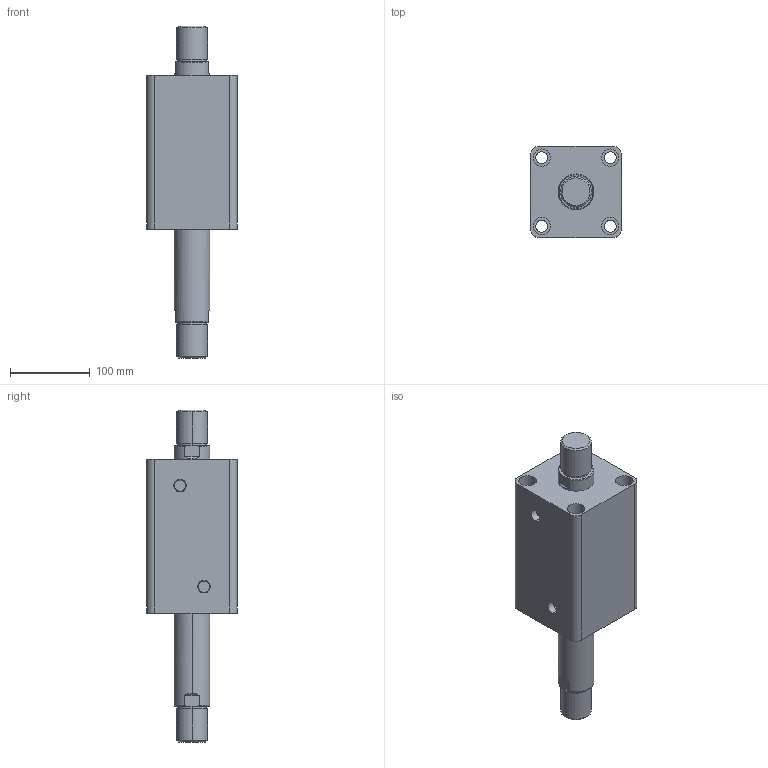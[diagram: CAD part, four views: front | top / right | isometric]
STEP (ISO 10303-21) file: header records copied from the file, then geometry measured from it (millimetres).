
FILE_DESCRIPTION (( 'STEP AP203' ), '1' );
FILE_NAME ('HTB-SW80-100W.STEP', '2019-10-07T10:28:14', ( '微软用户' ), ( '微软中国' ), 'SwSTEP 2.0', 'SolidWorks 2012', '' );
FILE_SCHEMA (( 'CONFIG_CONTROL_DESIGN' ));
Length unit declared in the file: millimetre
Products named in the file (3): HTB-SW80-100W; HTB-SW80-100W活塞杆; HTB-SW80-100掛极
Assembly tree (2 placements, depth 2):
  HTB-SW80-100W
    HTB-SW80-100掛极
    HTB-SW80-100W活塞杆
Bounding box: 114 x 114 x 417 mm (x, y, z)
Volume: 2300636.6 mm3; surface area: 265510.8 mm2
Topology: 2 solids, 2 shells, 108 faces, 240 edges, 156 vertices
Faces by surface type: cylinder 52, plane 36, torus 12, cone 8
Entity records: 3449 total; most frequent: CARTESIAN_POINT 629, DIRECTION 586, ORIENTED_EDGE 480, AXIS2_PLACEMENT_3D 249, EDGE_CURVE 240, VERTEX_POINT 156, EDGE_LOOP 138, CIRCLE 136
